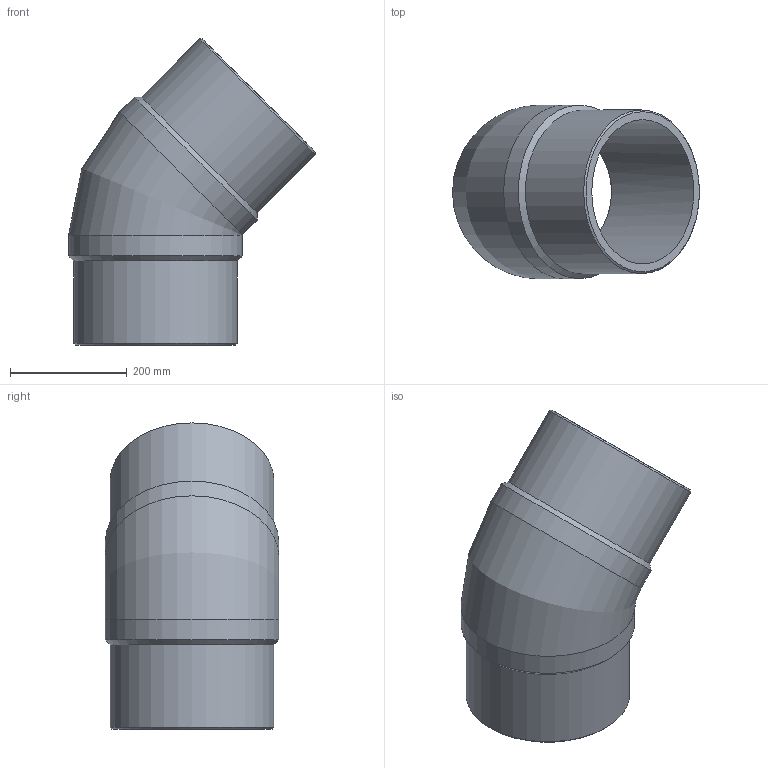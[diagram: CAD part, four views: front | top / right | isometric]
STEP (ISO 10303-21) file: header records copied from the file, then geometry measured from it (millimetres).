
FILE_DESCRIPTION(/* description */ ('Unknown'),/* implementation_level */ '2;1');
FILE_NAME(/* name */ 'G4P280B',/* time_stamp */ '2022-01-17T12:00:25+01:00',/* author */ ('Unknown'),/* organization */ ('Unknown'),/* preprocessor_version */ 'ST-DEVELOPER v18.1',/* originating_system */ 'Solid Edge',/* authorisation */ 'Unknown');
FILE_SCHEMA (('AUTOMOTIVE_DESIGN {1 0 10303 214 3 1 1}'));
Length unit declared in the file: millimetre
Products named in the file (1): G4P280B
Bounding box: 422.15 x 297 x 523.65 mm (x, y, z)
Volume: 8308167.3 mm3; surface area: 858322.8 mm2
Topology: 1 solids, 1 shells, 14 faces, 34 edges, 22 vertices
Faces by surface type: cylinder 6, cone 4, plane 2, torus 2
Full cylindrical faces by diameter (mm): 246.8 x2, 280 x2, 297 x2
Entity records: 368 total; most frequent: CARTESIAN_POINT 68, DIRECTION 60, ORIENTED_EDGE 38, AXIS2_PLACEMENT_3D 30, EDGE_LOOP 27, FACE_BOUND 27, EDGE_CURVE 19, VERTEX_POINT 18
